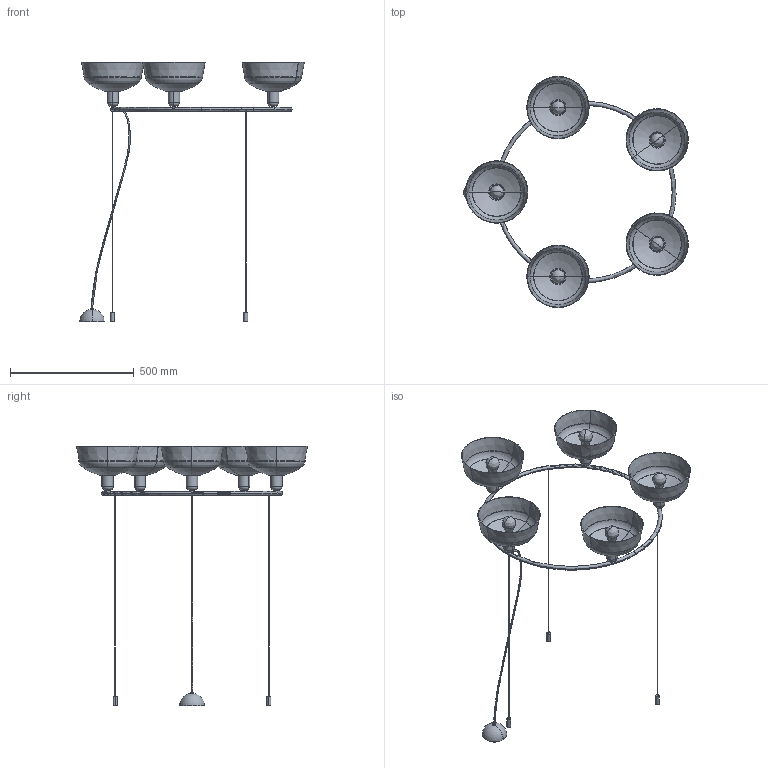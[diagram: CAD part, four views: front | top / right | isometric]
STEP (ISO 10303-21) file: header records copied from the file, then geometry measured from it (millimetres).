
FILE_DESCRIPTION(/* description */ (''),/* implementation_level */ '2;1');
FILE_NAME(/* name */ 'tatawin_pendantlamp_round_m_5.step',/* time_stamp */ '2024-10-23T10:30:04+02:00',/* author */ ('RenataManzini'),/* organization */ (''),/* preprocessor_version */ 'ST-DEVELOPER v20',/* originating_system */ 'AutoCAD Mechanical',/* authorisation */ '');
FILE_SCHEMA (('AUTOMOTIVE_DESIGN { 1 0 10303 214 3 1 1 }'));
Length unit declared in the file: millimetre
Products named in the file (1): Product
Bounding box: 906.1 x 932.87 x 1046.02 mm (x, y, z)
Volume: 2271211.4 mm3; surface area: 2458545.2 mm2
Topology: 25 solids, 26 shells, 537 faces, 1072 edges, 570 vertices
Faces by surface type: plane 189, cylinder 140, bspline 102, torus 52, cone 50, sphere 4
Entity records: 29483 total; most frequent: CARTESIAN_POINT 18867, DIRECTION 2333, ORIENTED_EDGE 2088, EDGE_CURVE 1044, AXIS2_PLACEMENT_3D 981, VERTEX_POINT 560, EDGE_LOOP 554, CIRCLE 545
